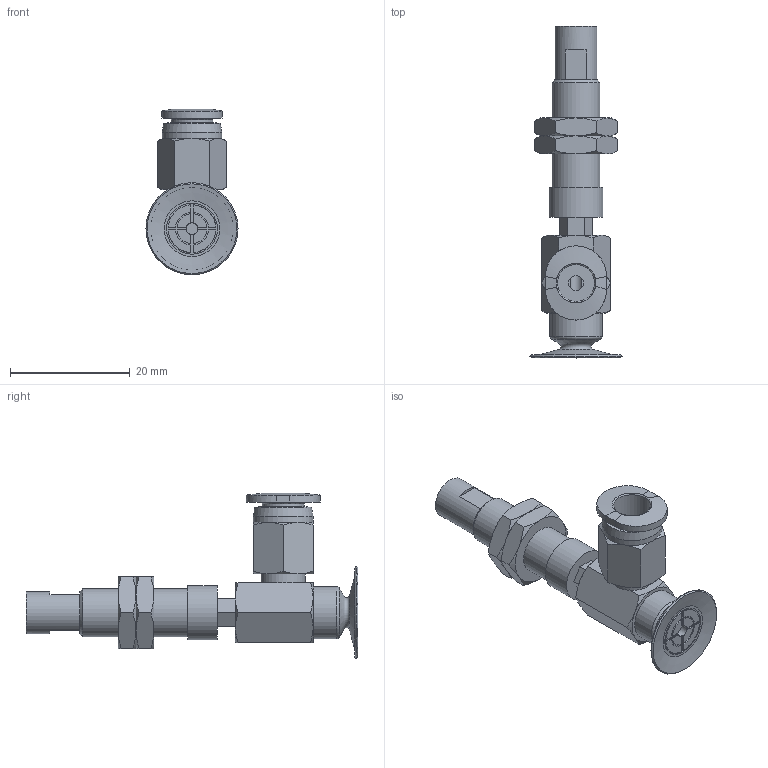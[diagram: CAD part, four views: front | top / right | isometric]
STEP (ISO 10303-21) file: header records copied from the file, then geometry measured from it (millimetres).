
FILE_DESCRIPTION(('STEP AP203'),'1');
FILE_NAME('-O.stp','2025-03-13T03:09:16',(' '),(' '),'Spatial InterOp 3D',' ',' ');
FILE_SCHEMA(('CONFIG_CONTROL_DESIGN'));
Length unit declared in the file: millimetre
Products named in the file (7): BNABPAYH-15B-3-※-O; NAPATH-10A-3--M; NAPATH-10A-3--F; Nut-10A-S; CONNECTOR-10A-3-PA; PC-C_06-M5; BPAG-15B-※
Assembly tree (7 placements, depth 2):
  BNABPAYH-15B-3-※-O
    NAPATH-10A-3--M
    NAPATH-10A-3--F
    Nut-10A-S  x2
    CONNECTOR-10A-3-PA
    PC-C_06-M5
    BPAG-15B-※
Bounding box: 15.4 x 55.5 x 27.68 mm (x, y, z)
Volume: 4215.5 mm3; surface area: 5420.4 mm2
Topology: 7 solids, 7 shells, 232 faces, 511 edges, 311 vertices
Faces by surface type: plane 100, cone 76, cylinder 37, torus 12, bspline 4, revolution 3
Full cylindrical faces by diameter (mm): 2 x2, 4 x4, 4.134 x2, 5 x2, 6 x2, 7 x2, 7.188 x2, 7.4 x1, 8 x1, 8.2 x1, 8.5 x1, 8.7 x1, 9 x1, 10 x1
Entity records: 6228 total; most frequent: CARTESIAN_POINT 1673, DIRECTION 861, ORIENTED_EDGE 796, EDGE_CURVE 398, AXIS2_PLACEMENT_3D 354, EDGE_LOOP 288, VERTEX_POINT 270, FACE_OUTER_BOUND 243
